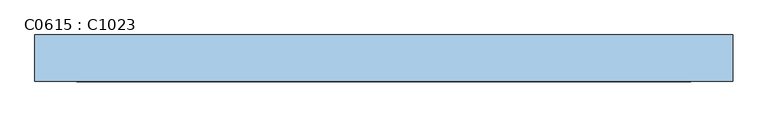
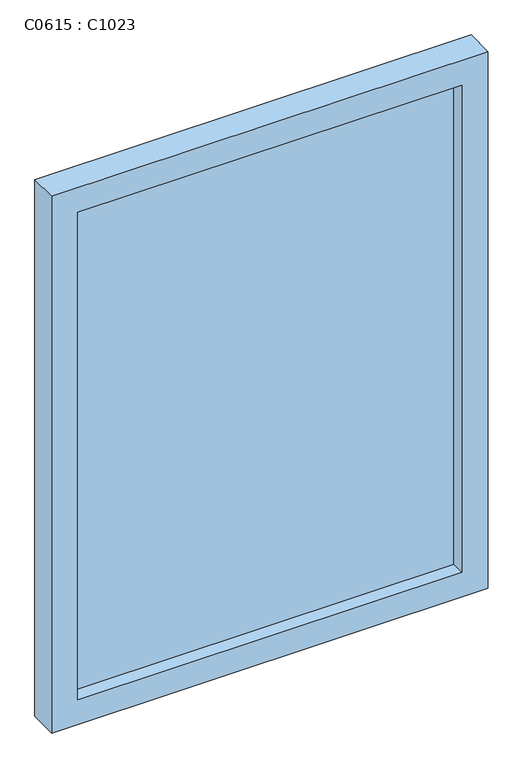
"""IFC4 building model written with IfcOpenShell, lengths in millimetres: window geometry, C0615 : C1023."""

from ifc_helpers import new_model, si_unit, frame, origin, place, context, project, spatial, polyline, outline, extrude, source, transform, mapped, element, save


def c0615_c1023_ef9932f1(model_context):
    return source(origin(), model_context, "Body", "SweptSolid", [
        extrude(outline(polyline([(440.0, -1.3674018), (-440.0, -1.3674018), (-440.0, 26.348844), (440.0, 26.348844), (440.0, -1.3674018)])), frame((0.0, 0.0, 1510.0), z_axis=(0.0, 0.0, 1.0), x_axis=(1.0, 0.0, 0.0)), (0.0, 0.0, 1.0), 1180.0),
        extrude(outline(polyline([(2750.0, 500.0), (2750.0, -500.0), (1450.0, -500.0), (1450.0, 500.0), (2750.0, 500.0)]), holes=[polyline([(1510.0, 440.0), (1510.0, -440.0), (2690.0, -440.0), (2690.0, 440.0), (1510.0, 440.0)])]), frame((0.0, -33.3333333, 0.0), z_axis=(0.0, 1.0, 0.0), x_axis=(0.0, 0.0, 1.0)), (0.0, 0.0, 1.0), 66.6666667),
    ])


if __name__ == "__main__":
    model = new_model("IFC4")
    model_context = context("Model", 3, world=origin())
    ifc_project = project(units=[si_unit("LENGTHUNIT", "METRE", prefix="MILLI")], contexts=[model_context])
    site = spatial("IfcSite", under=ifc_project)
    building = spatial("IfcBuilding", under=site)
    placement = place(None, origin())
    c0615_c1023_shape = c0615_c1023_ef9932f1(model_context)
    element("IfcWindow", 1, ObjectType="C0615 : C1023", at=placement, inside=building, context=model_context, shape_type="MappedRepresentation", body=[
        mapped(c0615_c1023_shape, transform((0.0, 0.0, 0.0), x_axis=(1.0, 0.0, 0.0), y_axis=(0.0, 1.0, 0.0), z_axis=(0.0, 0.0, 1.0))),
    ])
    save(model, "model.ifc")
